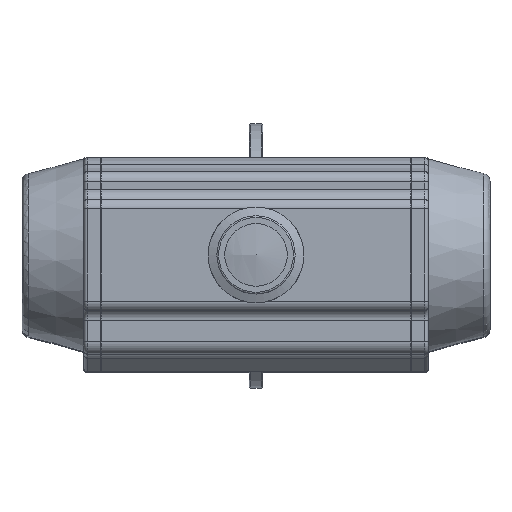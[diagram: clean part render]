
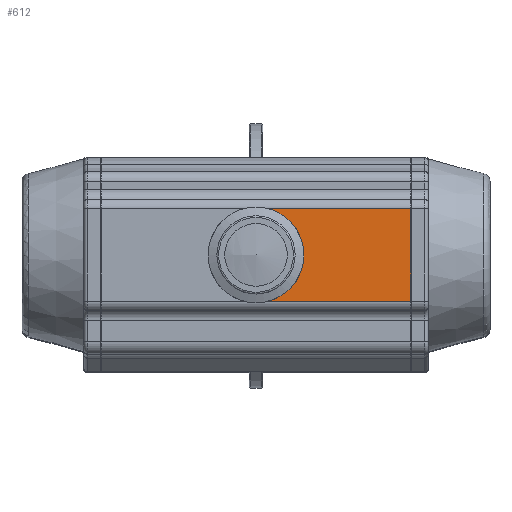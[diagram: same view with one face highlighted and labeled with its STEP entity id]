
A CAD part, top view. The second image highlights one B-rep face of the part: STEP entity #612.
In plain terms, the highlighted planar face has unit normal (0, 0, 1).
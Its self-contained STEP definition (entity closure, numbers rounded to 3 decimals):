
#612 = ADVANCED_FACE( '', ( #1683 ), #1684, .T. );
#1683 = FACE_OUTER_BOUND( '', #3357, .T. );
#1684 = PLANE( '', #3358 );
#3357 = EDGE_LOOP( '', ( #5999, #6000, #6001, #6002 ) );
#3358 = AXIS2_PLACEMENT_3D( '', #6003, #6004, #6005 );
#5999 = ORIENTED_EDGE( '', *, *, #11145, .T. );
#6000 = ORIENTED_EDGE( '', *, *, #11146, .F. );
#6001 = ORIENTED_EDGE( '', *, *, #11147, .T. );
#6002 = ORIENTED_EDGE( '', *, *, #11148, .T. );
#6003 = CARTESIAN_POINT( '', ( 89., -26.5, 64. ) );
#6004 = DIRECTION( '', ( 0., 0., 1. ) );
#6005 = DIRECTION( '', ( 1., 0., 0. ) );
#11145 = EDGE_CURVE( '', #12982, #12983, #12984, .T. );
#11146 = EDGE_CURVE( '', #12985, #12983, #12986, .T. );
#11147 = EDGE_CURVE( '', #12985, #12987, #12988, .T. );
#11148 = EDGE_CURVE( '', #12987, #12982, #12989, .T. );
#12982 = VERTEX_POINT( '', #15739 );
#12983 = VERTEX_POINT( '', #15740 );
#12984 = CIRCLE( '', #15741, 27.5 );
#12985 = VERTEX_POINT( '', #15742 );
#12986 = LINE( '', #15743, #15744 );
#12987 = VERTEX_POINT( '', #15745 );
#12988 = LINE( '', #15746, #15747 );
#12989 = LINE( '', #15748, #15749 );
#15739 = CARTESIAN_POINT( '', ( 7.348, 26.5, 64. ) );
#15740 = CARTESIAN_POINT( '', ( 7.348, -26.5, 64. ) );
#15741 = AXIS2_PLACEMENT_3D( '', #22679, #22680, #22681 );
#15742 = CARTESIAN_POINT( '', ( 89., -26.5, 64. ) );
#15743 = CARTESIAN_POINT( '', ( 89., -26.5, 64. ) );
#15744 = VECTOR( '', #22682, 1000. );
#15745 = CARTESIAN_POINT( '', ( 89., 26.5, 64. ) );
#15746 = CARTESIAN_POINT( '', ( 89., -26.5, 64. ) );
#15747 = VECTOR( '', #22683, 1000. );
#15748 = CARTESIAN_POINT( '', ( 89., 26.5, 64. ) );
#15749 = VECTOR( '', #22684, 1000. );
#22679 = CARTESIAN_POINT( '', ( 0., 0., 64. ) );
#22680 = DIRECTION( '', ( 0., 0., -1. ) );
#22681 = DIRECTION( '', ( -1., 0., 0. ) );
#22682 = DIRECTION( '', ( -1., 0., 0. ) );
#22683 = DIRECTION( '', ( 0., 1., 0. ) );
#22684 = DIRECTION( '', ( -1., 0., 0. ) );
